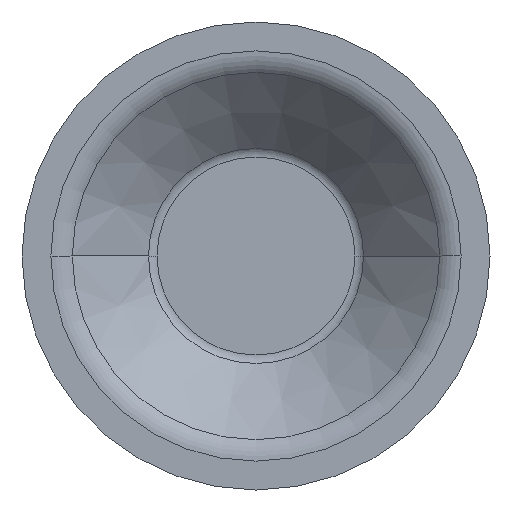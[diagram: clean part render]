
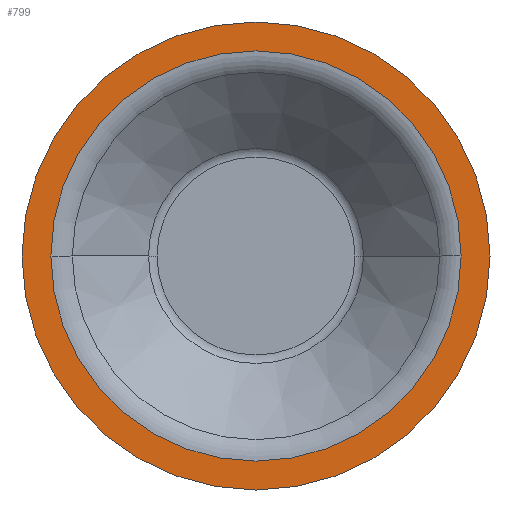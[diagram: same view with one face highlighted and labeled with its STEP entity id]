
A CAD part, front view. The second image highlights one B-rep face of the part: STEP entity #799.
In plain terms, the highlighted planar face has unit normal (0, -1, 0).
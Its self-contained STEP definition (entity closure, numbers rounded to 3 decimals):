
#8 = AXIS2_PLACEMENT_3D ( 'NONE', #603, #1007, #10 ) ;
#10 = DIRECTION ( 'NONE',  ( -1., 0., 0. ) ) ;
#46 = CIRCLE ( 'NONE', #746, 38. ) ;
#84 = PLANE ( 'NONE',  #735 ) ;
#125 = CARTESIAN_POINT ( 'NONE',  ( 0., -17., 0. ) ) ;
#141 = VERTEX_POINT ( 'NONE', #516 ) ;
#206 = FACE_OUTER_BOUND ( 'NONE', #1500, .T. ) ;
#211 = ORIENTED_EDGE ( 'NONE', *, *, #535, .T. ) ;
#235 = DIRECTION ( 'NONE',  ( -1., 0., 0. ) ) ;
#251 = CARTESIAN_POINT ( 'NONE',  ( -33.312, -17., 0. ) ) ;
#292 = DIRECTION ( 'NONE',  ( 0., -1., 0. ) ) ;
#323 = DIRECTION ( 'NONE',  ( 0., -1., 0. ) ) ;
#379 = ORIENTED_EDGE ( 'NONE', *, *, #1620, .F. ) ;
#453 = ORIENTED_EDGE ( 'NONE', *, *, #1253, .F. ) ;
#467 = EDGE_LOOP ( 'NONE', ( #379, #453 ) ) ;
#499 = CARTESIAN_POINT ( 'NONE',  ( 33.312, -17., 0. ) ) ;
#516 = CARTESIAN_POINT ( 'NONE',  ( -38., -17., 0. ) ) ;
#532 = CARTESIAN_POINT ( 'NONE',  ( 0., -17., 0. ) ) ;
#535 = EDGE_CURVE ( 'NONE', #1133, #141, #1328, .T. ) ;
#551 = DIRECTION ( 'NONE',  ( 1., 0., 0. ) ) ;
#571 = CARTESIAN_POINT ( 'NONE',  ( 38., -17., 0. ) ) ;
#603 = CARTESIAN_POINT ( 'NONE',  ( 0., -17., 0. ) ) ;
#735 = AXIS2_PLACEMENT_3D ( 'NONE', #1333, #323, #1215 ) ;
#746 = AXIS2_PLACEMENT_3D ( 'NONE', #811, #292, #551 ) ;
#799 = ADVANCED_FACE ( 'NONE', ( #1341, #206 ), #84, .T. ) ;
#811 = CARTESIAN_POINT ( 'NONE',  ( 0., -17., 0. ) ) ;
#871 = VERTEX_POINT ( 'NONE', #251 ) ;
#910 = DIRECTION ( 'NONE',  ( 1., 0., 0. ) ) ;
#1007 = DIRECTION ( 'NONE',  ( 0., -1., 0. ) ) ;
#1019 = DIRECTION ( 'NONE',  ( 0., -1., 0. ) ) ;
#1133 = VERTEX_POINT ( 'NONE', #571 ) ;
#1208 = CIRCLE ( 'NONE', #1425, 33.312 ) ;
#1209 = DIRECTION ( 'NONE',  ( 0., -1., 0. ) ) ;
#1215 = DIRECTION ( 'NONE',  ( 1., 0., 0. ) ) ;
#1233 = ORIENTED_EDGE ( 'NONE', *, *, #1391, .T. ) ;
#1253 = EDGE_CURVE ( 'NONE', #1262, #871, #1208, .T. ) ;
#1262 = VERTEX_POINT ( 'NONE', #499 ) ;
#1304 = AXIS2_PLACEMENT_3D ( 'NONE', #532, #1019, #910 ) ;
#1328 = CIRCLE ( 'NONE', #1304, 38. ) ;
#1333 = CARTESIAN_POINT ( 'NONE',  ( 38., -17., 0. ) ) ;
#1341 = FACE_BOUND ( 'NONE', #467, .T. ) ;
#1391 = EDGE_CURVE ( 'NONE', #141, #1133, #46, .T. ) ;
#1425 = AXIS2_PLACEMENT_3D ( 'NONE', #125, #1209, #235 ) ;
#1426 = CIRCLE ( 'NONE', #8, 33.312 ) ;
#1500 = EDGE_LOOP ( 'NONE', ( #211, #1233 ) ) ;
#1620 = EDGE_CURVE ( 'NONE', #871, #1262, #1426, .T. ) ;
